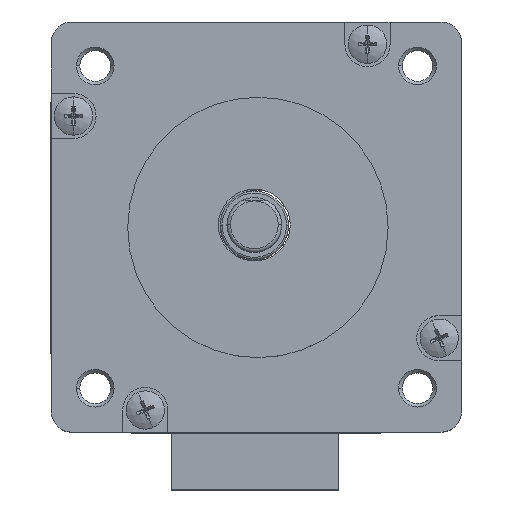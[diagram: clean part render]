
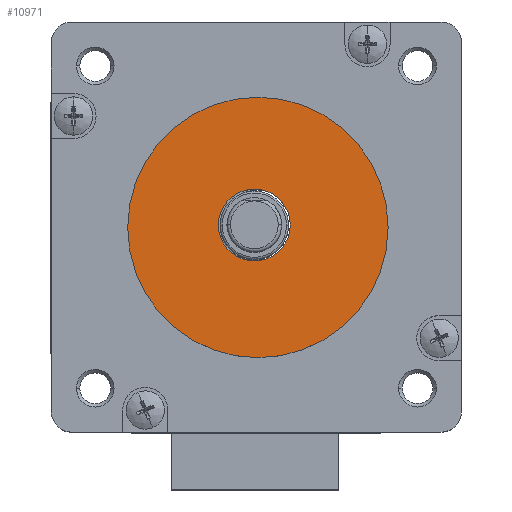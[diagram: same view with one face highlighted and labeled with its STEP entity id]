
A CAD part, top view. The second image highlights one B-rep face of the part: STEP entity #10971.
In plain terms, the highlighted planar face has unit normal (0, 0, 1).
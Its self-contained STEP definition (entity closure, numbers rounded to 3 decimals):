
#416 = DIRECTION ( 'NONE',  ( 1., 0., 0. ) ) ;
#835 = DIRECTION ( 'NONE',  ( -1., 0., 0. ) ) ;
#1553 = ORIENTED_EDGE ( 'NONE', *, *, #12832, .T. ) ;
#1909 = CARTESIAN_POINT ( 'NONE',  ( -5.548, 0.299, 12.1 ) ) ;
#2553 = DIRECTION ( 'NONE',  ( 0., 0., 1. ) ) ;
#2830 = AXIS2_PLACEMENT_3D ( 'NONE', #15538, #11224, #9062 ) ;
#2958 = CARTESIAN_POINT ( 'NONE',  ( -18.825, -0.055, 12.1 ) ) ;
#2970 = DIRECTION ( 'NONE',  ( 0., 0., -1. ) ) ;
#4698 = CARTESIAN_POINT ( 'NONE',  ( 0.225, -0.055, 12.1 ) ) ;
#5433 = ORIENTED_EDGE ( 'NONE', *, *, #11145, .T. ) ;
#6716 = AXIS2_PLACEMENT_3D ( 'NONE', #13708, #2970, #835 ) ;
#8078 = DIRECTION ( 'NONE',  ( 1., 0., 0. ) ) ;
#8137 = DIRECTION ( 'NONE',  ( 1., 0., 0. ) ) ;
#8189 = FACE_BOUND ( 'NONE', #11292, .T. ) ;
#8715 = CIRCLE ( 'NONE', #12702, 19.05 ) ;
#9062 = DIRECTION ( 'NONE',  ( -1., 0., 0. ) ) ;
#9217 = CIRCLE ( 'NONE', #2830, 5.25 ) ;
#10216 = DIRECTION ( 'NONE',  ( 0., 0., 1. ) ) ;
#10272 = DIRECTION ( 'NONE',  ( 0., 0., 1. ) ) ;
#10971 = ADVANCED_FACE ( 'NONE', ( #8189, #13628 ), #14596, .T. ) ;
#11145 = EDGE_CURVE ( 'NONE', #15545, #12568, #17356, .T. ) ;
#11224 = DIRECTION ( 'NONE',  ( 0., 0., -1. ) ) ;
#11292 = EDGE_LOOP ( 'NONE', ( #1553, #5433 ) ) ;
#11760 = ORIENTED_EDGE ( 'NONE', *, *, #12318, .T. ) ;
#12146 = EDGE_CURVE ( 'NONE', #13913, #15043, #18233, .T. ) ;
#12318 = EDGE_CURVE ( 'NONE', #15043, #13913, #8715, .T. ) ;
#12438 = CARTESIAN_POINT ( 'NONE',  ( 0.225, -0.055, 12.1 ) ) ;
#12568 = VERTEX_POINT ( 'NONE', #1909 ) ;
#12702 = AXIS2_PLACEMENT_3D ( 'NONE', #14538, #10216, #8078 ) ;
#12832 = EDGE_CURVE ( 'NONE', #12568, #15545, #9217, .T. ) ;
#13628 = FACE_OUTER_BOUND ( 'NONE', #17001, .T. ) ;
#13708 = CARTESIAN_POINT ( 'NONE',  ( -0.298, 0.299, 12.1 ) ) ;
#13913 = VERTEX_POINT ( 'NONE', #19867 ) ;
#14538 = CARTESIAN_POINT ( 'NONE',  ( 0.225, -0.055, 12.1 ) ) ;
#14596 = PLANE ( 'NONE',  #14706 ) ;
#14706 = AXIS2_PLACEMENT_3D ( 'NONE', #12438, #10272, #8137 ) ;
#15043 = VERTEX_POINT ( 'NONE', #2958 ) ;
#15538 = CARTESIAN_POINT ( 'NONE',  ( -0.298, 0.299, 12.1 ) ) ;
#15545 = VERTEX_POINT ( 'NONE', #16463 ) ;
#16180 = ORIENTED_EDGE ( 'NONE', *, *, #12146, .T. ) ;
#16463 = CARTESIAN_POINT ( 'NONE',  ( 4.952, 0.299, 12.1 ) ) ;
#17001 = EDGE_LOOP ( 'NONE', ( #11760, #16180 ) ) ;
#17356 = CIRCLE ( 'NONE', #6716, 5.25 ) ;
#18233 = CIRCLE ( 'NONE', #19654, 19.05 ) ;
#19654 = AXIS2_PLACEMENT_3D ( 'NONE', #4698, #2553, #416 ) ;
#19867 = CARTESIAN_POINT ( 'NONE',  ( 19.275, -0.055, 12.1 ) ) ;
